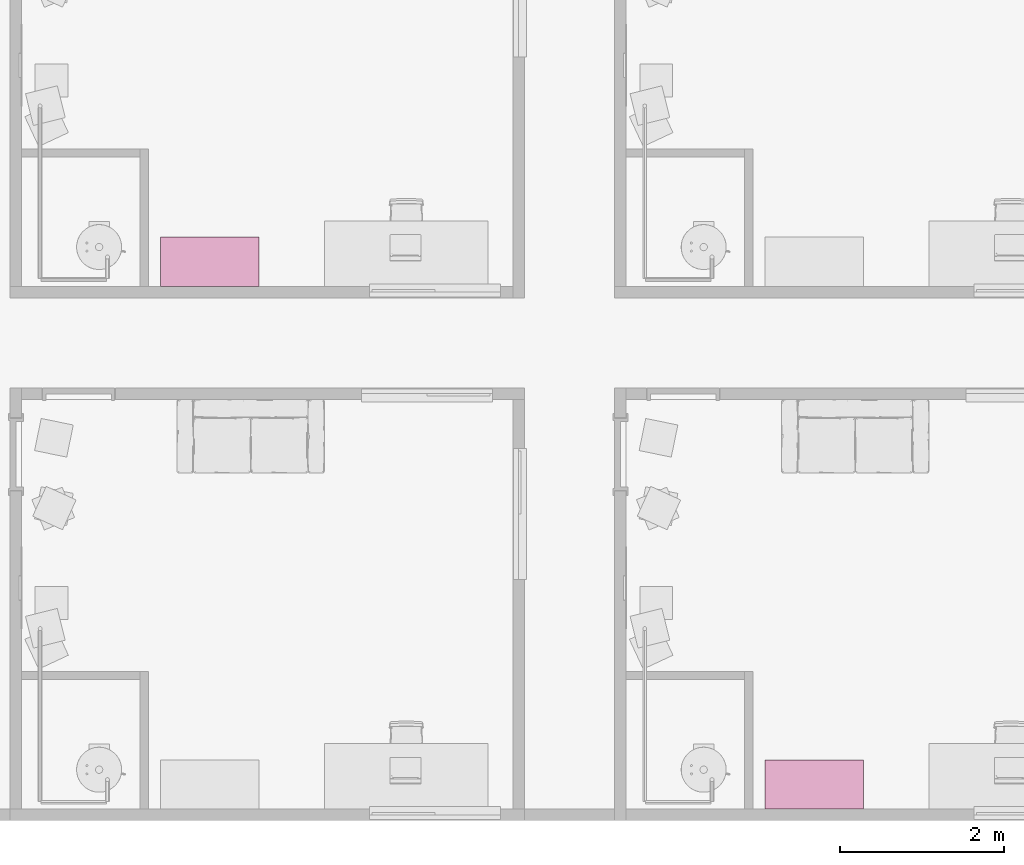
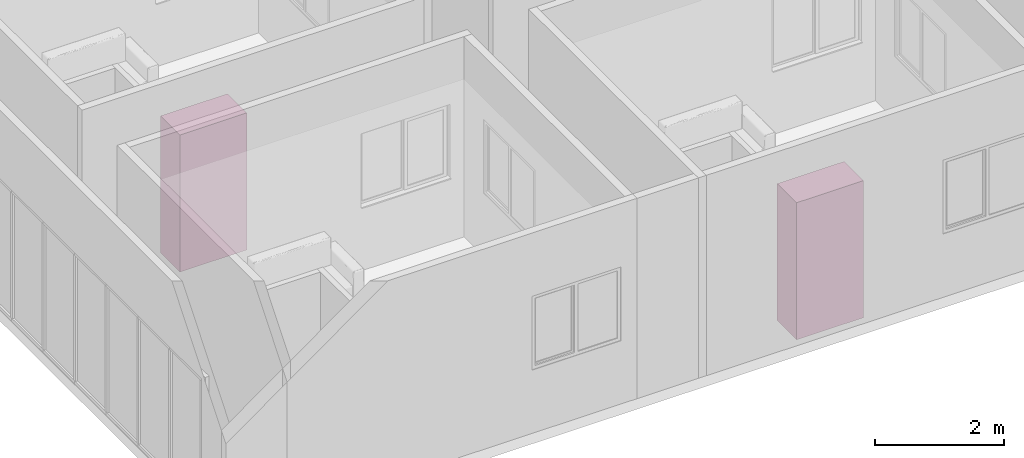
# One storey, part 53 of 71: 2 furniture elements.
"""IFC4 building model written with IfcOpenShell, lengths in centimetres."""

from ifc_helpers import new_model, entity, si_unit, converted_unit, derived_unit, direction, frame, origin, place, context, subcontext, project, spatial, indexed_curve, outline, extrude, source, transform, mapped, material, type_object, type_shapes, element, save


model = new_model("IFC4")

# Units and contexts
model_context = context("Model", 3, precision=0.001, world=origin(), true_north=direction((6.123233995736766e-17, 1.0)))
body_context = subcontext(model_context, "Body", "Model", "MODEL_VIEW")
ifc_project = project(units=[si_unit("LENGTHUNIT", "METRE", prefix="CENTI"), si_unit("AREAUNIT", "SQUARE_METRE"), si_unit("VOLUMEUNIT", "CUBIC_METRE"), derived_unit("THERMALTRANSMITTANCEUNIT", [(si_unit("MASSUNIT", "GRAM", prefix="KILO"), 1), (si_unit("THERMODYNAMICTEMPERATUREUNIT", "KELVIN"), -1), (si_unit("TIMEUNIT", "SECOND"), -3)]), converted_unit("PLANEANGLEUNIT", "DEGREE", entity("IfcPlaneAngleMeasure", 0.017453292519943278), si_unit("PLANEANGLEUNIT", "RADIAN"), dimensions=[0, 0, 0, 0, 0, 0, 0]), derived_unit("MASSDENSITYUNIT", [(si_unit("MASSUNIT", "GRAM", prefix="KILO"), 1), (si_unit("LENGTHUNIT", "METRE"), -3)]), derived_unit("VAPORPERMEABILITYUNIT", [(si_unit("LENGTHUNIT", "METRE"), -1), (si_unit("TIMEUNIT", "SECOND"), 1)]), derived_unit("USERDEFINED", [(si_unit("MASSUNIT", "GRAM", prefix="KILO"), 1), (si_unit("TIMEUNIT", "SECOND"), -3), (si_unit("LENGTHUNIT", "METRE"), 3), (si_unit("ELECTRICCURRENTUNIT", "AMPERE"), -2)]), derived_unit("SPECIFICHEATCAPACITYUNIT", [(si_unit("THERMODYNAMICTEMPERATUREUNIT", "KELVIN"), -1), (si_unit("LENGTHUNIT", "METRE"), 2), (si_unit("TIMEUNIT", "SECOND"), -2)]), derived_unit("THERMALCONDUCTANCEUNIT", [(si_unit("MASSUNIT", "GRAM", prefix="KILO"), 1), (si_unit("THERMODYNAMICTEMPERATUREUNIT", "KELVIN"), -1), (si_unit("TIMEUNIT", "SECOND"), -3), (si_unit("LENGTHUNIT", "METRE"), 1)]), si_unit("PRESSUREUNIT", "PASCAL"), derived_unit("MODULUSOFELASTICITYUNIT", [(si_unit("MASSUNIT", "GRAM", prefix="KILO"), 1), (si_unit("LENGTHUNIT", "METRE"), -1), (si_unit("TIMEUNIT", "SECOND"), -2)]), derived_unit("THERMALEXPANSIONCOEFFICIENTUNIT", [(si_unit("THERMODYNAMICTEMPERATUREUNIT", "KELVIN"), -1)])], contexts=[model_context])

# Site, building, storey, space
site_placement = place(None, origin())
site = spatial("IfcSite", under=ifc_project, at=site_placement, Name="Default", CompositionType="ELEMENT")
building_placement = place(site_placement, origin())
building = spatial("IfcBuilding", under=site, at=building_placement, Name="IDS Escape Game Building", CompositionType="ELEMENT")
storey_placement = place(building_placement, frame((0.0, 0.0, 400.0)))
storey = spatial("IfcBuildingStorey", under=building, at=storey_placement, Name="01_First Floor", CompositionType="ELEMENT", Elevation=399.99999999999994)
space_1_placement = place(storey_placement, origin())
space_1 = spatial("IfcSpace", under=storey, at=space_1_placement, Name="37", CompositionType="ELEMENT", PredefinedType="NOTDEFINED")

# Furniture
ifc_material = material(Name="<Unnamed>")
furniture_type = type_object("IfcFurnitureType", Name="BPL_82.11_CA_UN_kast_gen_BERSnl:type 1", AssemblyPlace="NOTDEFINED", PredefinedType="NOTDEFINED", material=ifc_material)
shared_shape = source(origin(), body_context, "Body", "SweptSolid", [
    extrude(outline(indexed_curve([(-59.99999999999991, -29.999999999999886), (59.99999999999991, -29.999999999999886), (59.99999999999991, 29.999999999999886), (-59.99999999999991, 29.999999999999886), (-59.99999999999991, -29.999999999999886)], self_intersect=False)), frame((-60.0, -30.0, 0.0), z_axis=(0.0, 0.0, 1.0), x_axis=(-1.0, 0.0, 0.0)), (0.0, 0.0, 1.0), 260.0),
])
type_shapes(furniture_type, [shared_shape])
furniture_1_placement = place(space_1_placement, frame((1035.0, 73.0, 0.0)))
element("IfcFurniture", 1, at=furniture_1_placement, inside=space_1, type_object=furniture_type, material=ifc_material, Name="BPL_82.11_CA_UN_kast_gen_BERSnl:type 1", ObjectType="BPL_82.11_CA_UN_kast_gen_BERSnl:type 1", PredefinedType="NOTDEFINED", context=body_context, shape_type="MappedRepresentation", body=[
    mapped(shared_shape, transform((0.0, 0.0, 0.0), scale=1.0)),
])

# Space
space_2_placement = place(storey_placement, origin())
space_2 = spatial("IfcSpace", under=storey, at=space_2_placement, Name="43", CompositionType="ELEMENT", PredefinedType="NOTDEFINED")

# Furniture
furniture_2_placement = place(space_2_placement, frame((297.0, 711.0, 0.0)))
element("IfcFurniture", 2, at=furniture_2_placement, inside=space_2, type_object=furniture_type, material=ifc_material, Name="BPL_82.11_CA_UN_kast_gen_BERSnl:type 1", ObjectType="BPL_82.11_CA_UN_kast_gen_BERSnl:type 1", PredefinedType="NOTDEFINED", context=body_context, shape_type="MappedRepresentation", body=[
    mapped(shared_shape, transform((0.0, 0.0, 0.0), scale=1.0)),
])

save(model, "model.ifc")
